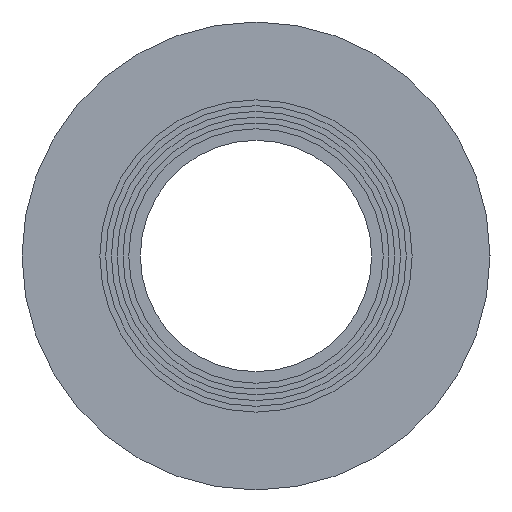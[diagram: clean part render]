
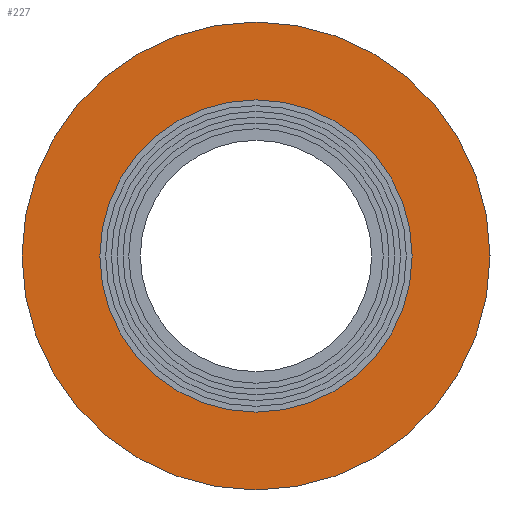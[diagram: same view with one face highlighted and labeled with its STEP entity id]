
A CAD part, left-side view. The second image highlights one B-rep face of the part: STEP entity #227.
In plain terms, the highlighted planar face has unit normal (-1, 0, 0).
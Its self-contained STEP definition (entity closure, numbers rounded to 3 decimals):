
#19=PLANE('',#265);
#45=FACE_BOUND('',#98,.T.);
#65=FACE_OUTER_BOUND('',#97,.T.);
#97=EDGE_LOOP('',(#197));
#98=EDGE_LOOP('',(#198));
#128=CIRCLE('',#263,34.02);
#129=CIRCLE('',#266,51.);
#148=VERTEX_POINT('',#401);
#149=VERTEX_POINT('',#405);
#168=EDGE_CURVE('',#148,#148,#128,.T.);
#169=EDGE_CURVE('',#149,#149,#129,.T.);
#197=ORIENTED_EDGE('',*,*,#169,.F.);
#198=ORIENTED_EDGE('',*,*,#168,.T.);
#227=ADVANCED_FACE('',(#65,#45),#19,.T.);
#263=AXIS2_PLACEMENT_3D('',#402,#331,#332);
#265=AXIS2_PLACEMENT_3D('',#404,#335,#336);
#266=AXIS2_PLACEMENT_3D('',#406,#337,#338);
#331=DIRECTION('center_axis',(1.,0.,0.));
#332=DIRECTION('ref_axis',(0.,0.,-1.));
#335=DIRECTION('center_axis',(-1.,0.,0.));
#336=DIRECTION('ref_axis',(0.,0.,1.));
#337=DIRECTION('center_axis',(1.,0.,0.));
#338=DIRECTION('ref_axis',(0.,0.,-1.));
#401=CARTESIAN_POINT('',(-120.,0.,34.02));
#402=CARTESIAN_POINT('Origin',(-120.,0.,0.));
#404=CARTESIAN_POINT('Origin',(-120.,51.,0.));
#405=CARTESIAN_POINT('',(-120.,51.,0.));
#406=CARTESIAN_POINT('Origin',(-120.,0.,0.));
